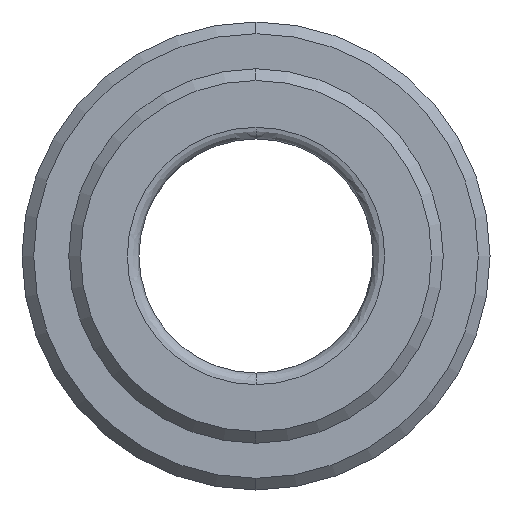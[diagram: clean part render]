
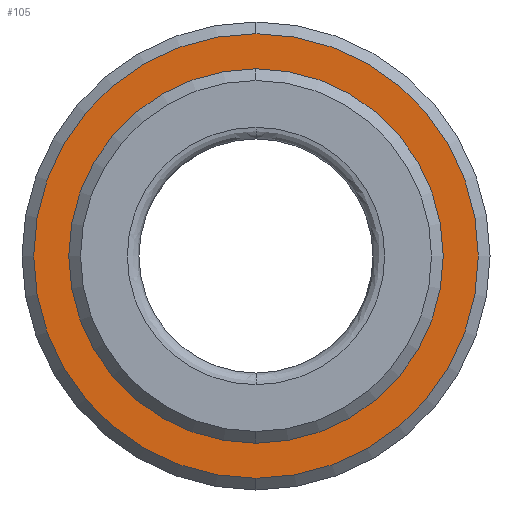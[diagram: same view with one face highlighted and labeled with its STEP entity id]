
A CAD part, front view. The second image highlights one B-rep face of the part: STEP entity #105.
In plain terms, the highlighted free-form (B-spline) face has degree [1, 1] with [2, 2] control points.
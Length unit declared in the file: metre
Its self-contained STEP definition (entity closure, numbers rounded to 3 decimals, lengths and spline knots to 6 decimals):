
#105 = ADVANCED_FACE( '', ( #175, #176 ), #177, .F. );
#175 = FACE_BOUND( '', #434, .T. );
#176 = FACE_OUTER_BOUND( '', #435, .T. );
#177 = B_SPLINE_SURFACE_WITH_KNOTS( '', 1, 1, ( ( #436, #437 ), ( #438, #439 ) ), .UNSPECIFIED., .F., .F., .F., ( 2, 2 ), ( 2, 2 ), ( 0., 1. ), ( 0., 1. ), .UNSPECIFIED. );
#434 = EDGE_LOOP( '', ( #763, #764 ) );
#435 = EDGE_LOOP( '', ( #765, #766 ) );
#436 = CARTESIAN_POINT( '', ( -0.019228, 0.026, -0.019228 ) );
#437 = CARTESIAN_POINT( '', ( 0.019228, 0.026, -0.019228 ) );
#438 = CARTESIAN_POINT( '', ( -0.019228, 0.026, 0.019228 ) );
#439 = CARTESIAN_POINT( '', ( 0.019228, 0.026, 0.019228 ) );
#763 = ORIENTED_EDGE( '', *, *, #877, .F. );
#764 = ORIENTED_EDGE( '', *, *, #878, .F. );
#765 = ORIENTED_EDGE( '', *, *, #868, .T. );
#766 = ORIENTED_EDGE( '', *, *, #869, .T. );
#868 = EDGE_CURVE( '', #972, #974, #976, .F. );
#869 = EDGE_CURVE( '', #974, #972, #977, .F. );
#877 = EDGE_CURVE( '', #989, #990, #991, .T. );
#878 = EDGE_CURVE( '', #990, #989, #992, .T. );
#972 = VERTEX_POINT( '', #1166 );
#974 = VERTEX_POINT( '', #1169 );
#976 = CIRCLE( '', #1172, 0.019 );
#977 = CIRCLE( '', #1173, 0.019 );
#989 = VERTEX_POINT( '', #1207 );
#990 = VERTEX_POINT( '', #1208 );
#991 = CIRCLE( '', #1209, 0.016 );
#992 = CIRCLE( '', #1210, 0.016 );
#1166 = CARTESIAN_POINT( '', ( 0., 0.026, -0.019 ) );
#1169 = CARTESIAN_POINT( '', ( 0., 0.026, 0.019 ) );
#1172 = AXIS2_PLACEMENT_3D( '', #1374, #1375, #1376 );
#1173 = AXIS2_PLACEMENT_3D( '', #1377, #1378, #1379 );
#1207 = CARTESIAN_POINT( '', ( 0., 0.026, 0.016 ) );
#1208 = CARTESIAN_POINT( '', ( 0., 0.026, -0.016 ) );
#1209 = AXIS2_PLACEMENT_3D( '', #1391, #1392, #1393 );
#1210 = AXIS2_PLACEMENT_3D( '', #1394, #1395, #1396 );
#1374 = CARTESIAN_POINT( '', ( 0., 0.026, 0. ) );
#1375 = DIRECTION( '', ( 0., 1., 0. ) );
#1376 = DIRECTION( '', ( 0., 0., 1. ) );
#1377 = CARTESIAN_POINT( '', ( 0., 0.026, 0. ) );
#1378 = DIRECTION( '', ( 0., 1., 0. ) );
#1379 = DIRECTION( '', ( 0., 0., 1. ) );
#1391 = CARTESIAN_POINT( '', ( 0., 0.026, 0. ) );
#1392 = DIRECTION( '', ( 0., -1., 0. ) );
#1393 = DIRECTION( '', ( 0., 0., -1. ) );
#1394 = CARTESIAN_POINT( '', ( 0., 0.026, 0. ) );
#1395 = DIRECTION( '', ( 0., -1., 0. ) );
#1396 = DIRECTION( '', ( 0., 0., -1. ) );
